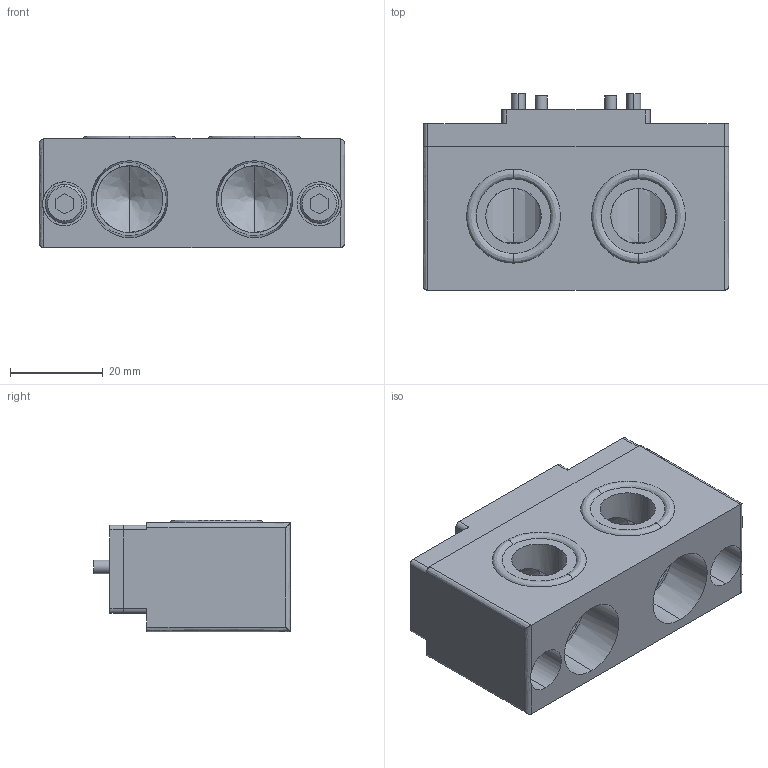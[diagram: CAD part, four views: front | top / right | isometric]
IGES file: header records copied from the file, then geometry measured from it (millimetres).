
Start section: 3D InterOp IGES (v. 2022 1.0.0), Spatial Corp. Copyright (c) 1999-2020.
Global section: file name: KHB-7HS-EP102_ver1.igs; native system: Spatial Corp.; preprocessor: 3D InterOp GENERIC/IGES 3.0; author: Noname; organization: Noname; date: 20260427.125443; units: millimetre
Bounding box: 66 x 42.5 x 24.1 mm (x, y, z)
Surface area: 15248.1 mm2 (no closed solid volume)
Topology: 0 solids, 0 shells, 173 faces, 806 edges, 802 vertices
Faces by surface type: revolution 93, extrusion 80
